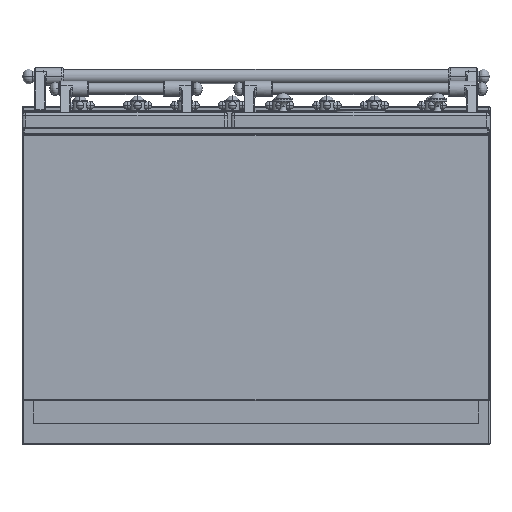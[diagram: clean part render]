
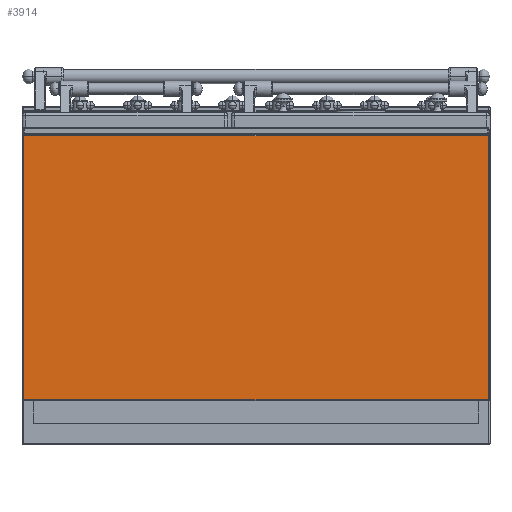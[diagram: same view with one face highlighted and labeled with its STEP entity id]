
A CAD part, front view. The second image highlights one B-rep face of the part: STEP entity #3914.
In plain terms, the highlighted planar face has unit normal (0, -1, 0).
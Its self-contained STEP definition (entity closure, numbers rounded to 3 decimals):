
#3529=DIRECTION('',(0.,0.,1.));
#3530=VECTOR('',#3529,508.);
#3531=CARTESIAN_POINT('',(447.,0.,-254.));
#3532=LINE('',#3531,#3530);
#3533=DIRECTION('',(-1.,0.,0.));
#3534=VECTOR('',#3533,894.);
#3535=CARTESIAN_POINT('',(447.,0.,-254.));
#3536=LINE('',#3535,#3534);
#3537=DIRECTION('',(0.,0.,-1.));
#3538=VECTOR('',#3537,508.);
#3539=CARTESIAN_POINT('',(-447.,0.,254.));
#3540=LINE('',#3539,#3538);
#3541=DIRECTION('',(-1.,0.,0.));
#3542=VECTOR('',#3541,894.);
#3543=CARTESIAN_POINT('',(447.,0.,254.));
#3544=LINE('',#3543,#3542);
#3649=CARTESIAN_POINT('',(447.,0.,-254.));
#3650=CARTESIAN_POINT('',(447.,0.,254.));
#3651=VERTEX_POINT('',#3649);
#3652=VERTEX_POINT('',#3650);
#3655=CARTESIAN_POINT('',(-447.,0.,-254.));
#3656=VERTEX_POINT('',#3655);
#3663=CARTESIAN_POINT('',(-447.,0.,254.));
#3664=VERTEX_POINT('',#3663);
#3902=CARTESIAN_POINT('',(-449.,0.,-256.));
#3903=DIRECTION('',(0.,1.,0.));
#3904=DIRECTION('',(0.,0.,1.));
#3905=AXIS2_PLACEMENT_3D('',#3902,#3903,#3904);
#3906=PLANE('',#3905);
#3908=ORIENTED_EDGE('',*,*,#3907,.F.);
#3909=ORIENTED_EDGE('',*,*,#3893,.T.);
#3910=ORIENTED_EDGE('',*,*,#3782,.F.);
#3911=ORIENTED_EDGE('',*,*,#3811,.F.);
#3912=EDGE_LOOP('',(#3908,#3909,#3910,#3911));
#3913=FACE_OUTER_BOUND('',#3912,.F.);
#3782=EDGE_CURVE('',#3664,#3656,#3540,.T.);
#3811=EDGE_CURVE('',#3652,#3664,#3544,.T.);
#3893=EDGE_CURVE('',#3651,#3656,#3536,.T.);
#3907=EDGE_CURVE('',#3651,#3652,#3532,.T.);
#3914=ADVANCED_FACE('',(#3913),#3906,.F.);
